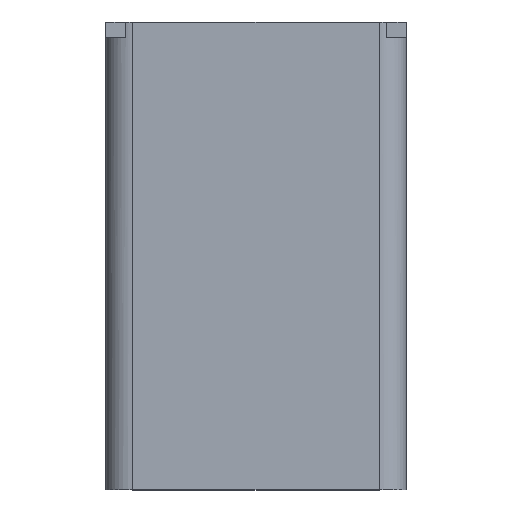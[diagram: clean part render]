
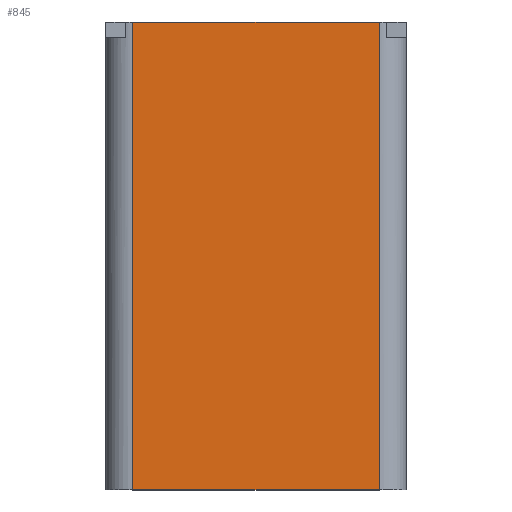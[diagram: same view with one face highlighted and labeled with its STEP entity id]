
A CAD part, top view. The second image highlights one B-rep face of the part: STEP entity #845.
In plain terms, the highlighted planar face has unit normal (0, 0, 1).
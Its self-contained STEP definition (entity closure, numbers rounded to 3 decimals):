
#23=DIRECTION('',(0.,1.,0.));
#24=VECTOR('',#23,53.8);
#25=CARTESIAN_POINT('',(14.2,0.,7.));
#26=LINE('',#25,#24);
#260=DIRECTION('',(1.,0.,0.));
#261=VECTOR('',#260,28.4);
#262=CARTESIAN_POINT('',(-14.2,0.,7.));
#263=LINE('',#262,#261);
#264=DIRECTION('',(-1.,0.,0.));
#265=VECTOR('',#264,28.4);
#266=CARTESIAN_POINT('',(14.2,53.8,7.));
#267=LINE('',#266,#265);
#273=DIRECTION('',(0.,-1.,0.));
#274=VECTOR('',#273,53.8);
#275=CARTESIAN_POINT('',(-14.2,53.8,7.));
#276=LINE('',#275,#274);
#374=CARTESIAN_POINT('',(14.2,0.,7.));
#376=VERTEX_POINT('',#374);
#378=CARTESIAN_POINT('',(14.2,53.8,7.));
#379=VERTEX_POINT('',#378);
#381=CARTESIAN_POINT('',(-14.2,0.,7.));
#383=VERTEX_POINT('',#381);
#384=CARTESIAN_POINT('',(-14.2,53.8,7.));
#385=VERTEX_POINT('',#384);
#833=CARTESIAN_POINT('',(0.,0.,7.));
#834=DIRECTION('',(0.,0.,1.));
#835=DIRECTION('',(1.,0.,0.));
#836=AXIS2_PLACEMENT_3D('',#833,#834,#835);
#837=PLANE('',#836);
#838=ORIENTED_EDGE('',*,*,#479,.F.);
#839=ORIENTED_EDGE('',*,*,#464,.F.);
#841=ORIENTED_EDGE('',*,*,#840,.F.);
#842=ORIENTED_EDGE('',*,*,#573,.F.);
#843=EDGE_LOOP('',(#838,#839,#841,#842));
#844=FACE_OUTER_BOUND('',#843,.F.);
#845=ADVANCED_FACE('',(#844),#837,.T.);
#464=EDGE_CURVE('',#383,#376,#263,.T.);
#479=EDGE_CURVE('',#376,#379,#26,.T.);
#573=EDGE_CURVE('',#379,#385,#267,.T.);
#840=EDGE_CURVE('',#385,#383,#276,.T.);
